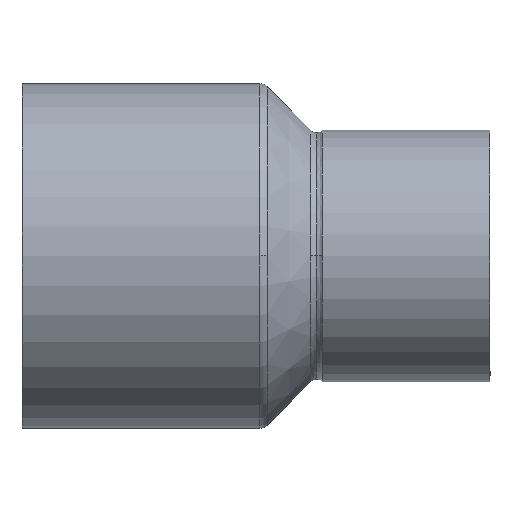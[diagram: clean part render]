
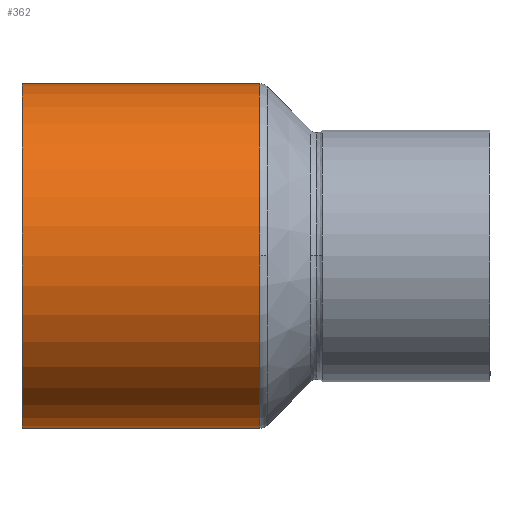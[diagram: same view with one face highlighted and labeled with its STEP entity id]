
A CAD part, top view. The second image highlights one B-rep face of the part: STEP entity #362.
In plain terms, the highlighted cylindrical face has radius 21 mm (diameter 42 mm), a partial arc.
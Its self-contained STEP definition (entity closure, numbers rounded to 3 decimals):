
#312=CARTESIAN_POINT('',(14.48,0.0,0.0));
#313=DIRECTION('',(1.0,0.0,0.0));
#314=DIRECTION('',(0.0,1.0,0.0));
#315=AXIS2_PLACEMENT_3D('',#312,#313,#314);
#316=CYLINDRICAL_SURFACE('',#315,21.);
#317=CARTESIAN_POINT('',(0.,21.,0.0));
#318=VERTEX_POINT('',#317);
#319=CARTESIAN_POINT('',(28.961,21.,0.0));
#320=VERTEX_POINT('',#319);
#321=CARTESIAN_POINT('',(0.,21.,0.0));
#322=DIRECTION('',(1.0,0.0,0.0));
#323=VECTOR('',#322,28.961);
#324=LINE('',#321,#323);
#325=EDGE_CURVE('',#318,#320,#324,.T.);
#326=ORIENTED_EDGE('',*,*,#325,.F.);
#327=CARTESIAN_POINT('',(0.,-21.,0.));
#328=VERTEX_POINT('',#327);
#329=CARTESIAN_POINT('',(0.,0.0,0.0));
#330=DIRECTION('',(1.0,0.0,0.0));
#331=DIRECTION('',(0.0,1.0,0.0));
#332=AXIS2_PLACEMENT_3D('',#329,#330,#331);
#333=CIRCLE('',#332,21.);
#334=EDGE_CURVE('',#318,#328,#333,.T.);
#335=ORIENTED_EDGE('',*,*,#334,.T.);
#336=CARTESIAN_POINT('',(28.961,-21.,0.));
#337=VERTEX_POINT('',#336);
#338=CARTESIAN_POINT('',(28.961,-21.,0.));
#339=DIRECTION('',(-1.0,0.0,0.0));
#340=VECTOR('',#339,28.961);
#341=LINE('',#338,#340);
#342=EDGE_CURVE('',#337,#328,#341,.T.);
#343=ORIENTED_EDGE('',*,*,#342,.F.);
#344=CARTESIAN_POINT('',(28.961,0.,21.));
#345=VERTEX_POINT('',#344);
#346=CARTESIAN_POINT('',(28.961,0.0,0.0));
#347=DIRECTION('',(1.0,0.0,0.0));
#348=DIRECTION('',(0.0,1.0,0.0));
#349=AXIS2_PLACEMENT_3D('',#346,#347,#348);
#350=CIRCLE('',#349,21.);
#351=EDGE_CURVE('',#345,#337,#350,.T.);
#352=ORIENTED_EDGE('',*,*,#351,.F.);
#353=CARTESIAN_POINT('',(28.961,0.0,0.0));
#354=DIRECTION('',(1.0,0.0,0.0));
#355=DIRECTION('',(0.0,1.0,0.0));
#356=AXIS2_PLACEMENT_3D('',#353,#354,#355);
#357=CIRCLE('',#356,21.);
#358=EDGE_CURVE('',#320,#345,#357,.T.);
#359=ORIENTED_EDGE('',*,*,#358,.F.);
#360=EDGE_LOOP('',(#326,#335,#343,#352,#359));
#361=FACE_OUTER_BOUND('',#360,.T.);
#362=ADVANCED_FACE('',(#361),#316,.T.);
